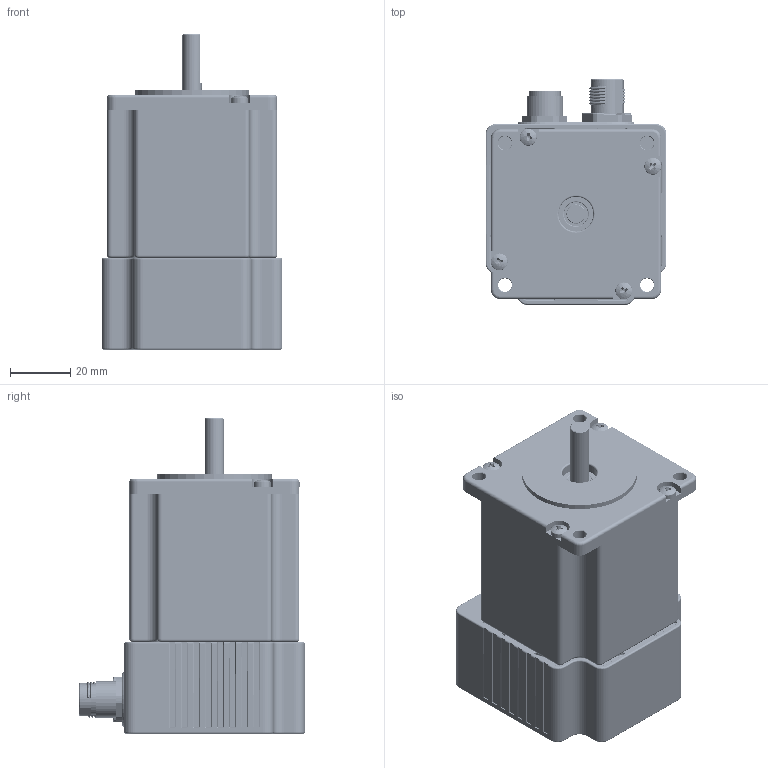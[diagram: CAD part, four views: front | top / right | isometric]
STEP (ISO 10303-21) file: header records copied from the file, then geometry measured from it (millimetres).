
FILE_DESCRIPTION (( 'STEP AP214' ), '1' );
FILE_NAME ('M57SH56-TM1611S05C.STEP', '2025-05-17T09:19:39', ( '' ), ( '' ), 'SwSTEP 2.0', 'SolidWorks 2019', '' );
FILE_SCHEMA (( 'AUTOMOTIVE_DESIGN' ));
Length unit declared in the file: millimetre
Products named in the file (3): M57SH56-TM1611S05C; M57SH56-TO0512L05C; LABPA-ABS_ENC
Assembly tree (2 placements, depth 2):
  M57SH56-TM1611S05C
    M57SH56-TO0512L05C
    LABPA-ABS_ENC
Bounding box: 60 x 74.9 x 104.51 mm (x, y, z)
Volume: 104107.8 mm3; surface area: 84114.9 mm2
Topology: 19 solids, 19 shells, 5698 faces, 14752 edges, 9278 vertices
Faces by surface type: plane 2070, cylinder 1585, bspline 816, torus 605, cone 561, sphere 61
Entity records: 280303 total; most frequent: CARTESIAN_POINT 84164, ORIENTED_EDGE 29340, DIRECTION 26981, EDGE_CURVE 14670, AXIS2_PLACEMENT_3D 9925, VERTEX_POINT 9278, VECTOR 7131, LINE 7131
